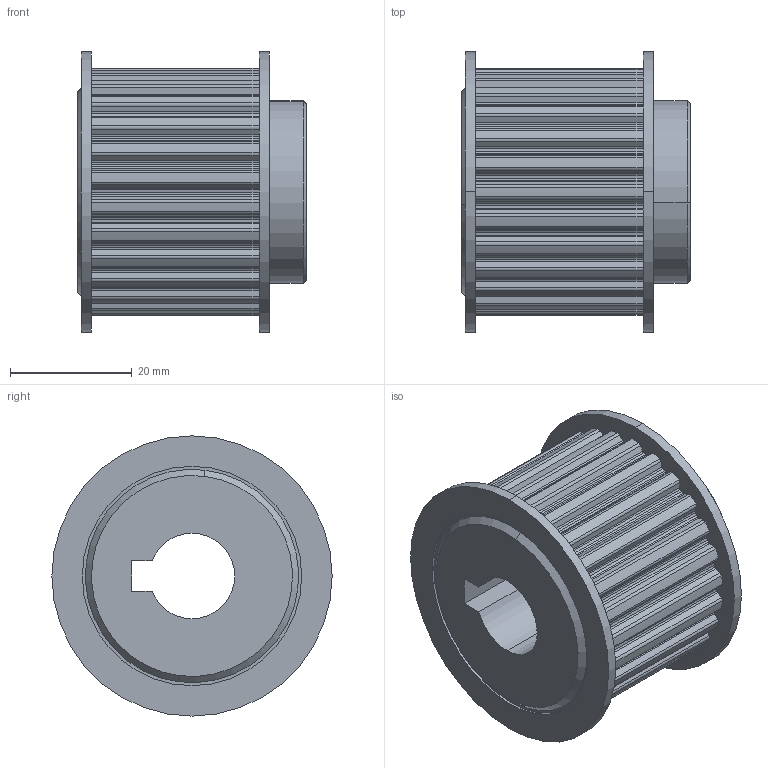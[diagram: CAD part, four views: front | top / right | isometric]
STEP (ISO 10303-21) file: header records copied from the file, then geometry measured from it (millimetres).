
FILE_DESCRIPTION (( 'STEP AP214' ), '1' );
FILE_NAME ('3.2040 Hammashihnapyörä 25T5_26D14K5_0.STEP', '2026-02-06T13:42:23', ( '' ), ( '' ), 'SwSTEP 2.0', 'SolidWorks 2025', '' );
FILE_SCHEMA (( 'AUTOMOTIVE_DESIGN' ));
Length unit declared in the file: millimetre
Products named in the file (1): 3.2040 Hammashihnapyörä 25T5_26D14K5_0
Bounding box: 37.5 x 46 x 46 mm (x, y, z)
Volume: 37362.2 mm3; surface area: 11560.8 mm2
Topology: 1 solids, 1 shells, 487 faces, 1383 edges, 920 vertices
Faces by surface type: plane 215, cylinder 180, bspline 84, cone 8
Entity records: 27451 total; most frequent: CARTESIAN_POINT 15314, ORIENTED_EDGE 2766, DIRECTION 2217, EDGE_CURVE 1383, VERTEX_POINT 920, VECTOR 811, LINE 811, AXIS2_PLACEMENT_3D 703
